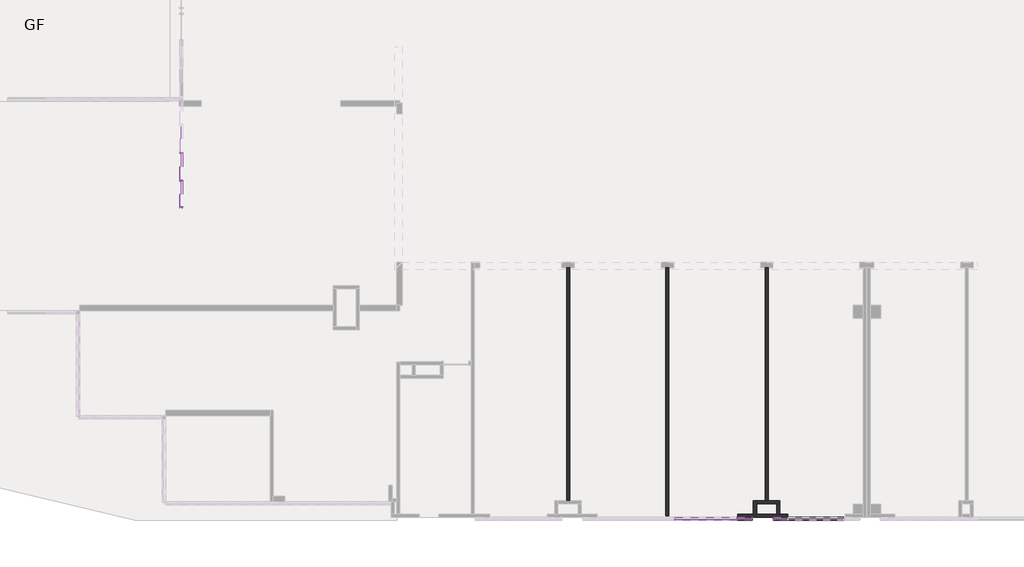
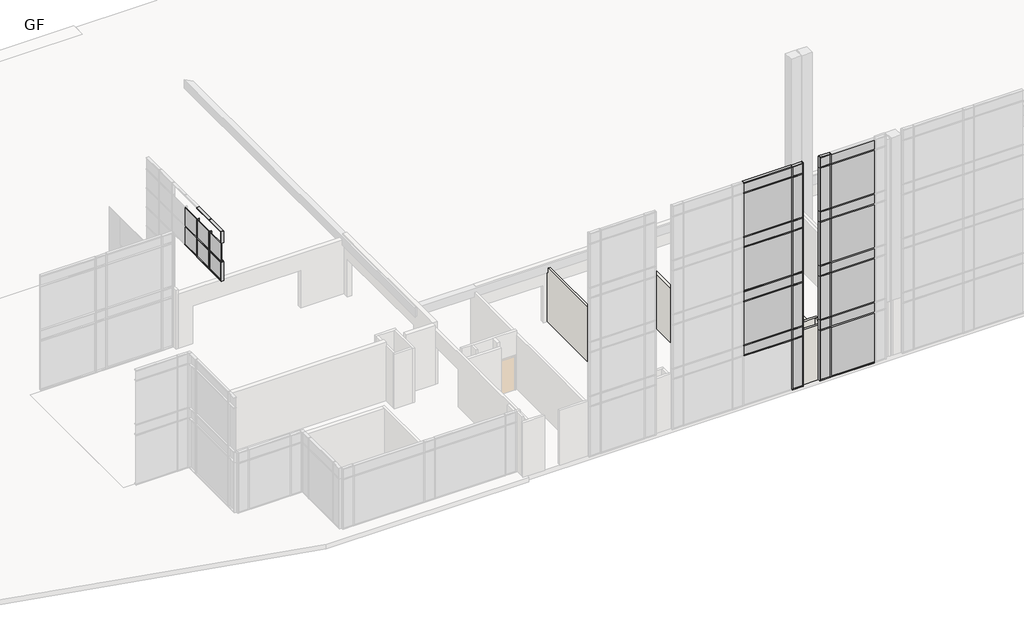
# One storey, part 5 of 23: 72 members, 37 plates, 7 walls.
"""IFC4 building model written with IfcOpenShell, lengths in millimetres."""

from ifc_helpers import new_model, si_unit, frame, origin, place, context, project, spatial, polyline, outline, extrude, faceted_brep, transform, mapped, element, save
from components import rectangular_mullion_50_x_150mm_64d38db8, rectangular_mullion_50_x_150mm_68b3818a, rectangular_mullion_50_x_150mm_350c86c2, rectangular_mullion_50_x_150mm_f245f1eb, rectangular_mullion_50_x_150mm_d11e3bb4, rectangular_mullion_50_x_150mm_7d543e93, rectangular_mullion_50_x_150mm_9e0f1e24, rectangular_mullion_50_x_150mm_a95743fc, rectangular_mullion_50_x_150mm_dbb82e9e, rectangular_mullion_50_x_150mm_32aaa733, rectangular_mullion_50_x_150mm_9b8962c0, rectangular_mullion_50_x_150mm_7dcb5a67, rectangular_mullion_50_x_150mm_f1d86669, rectangular_mullion_50_x_150mm_d99dc9be, rectangular_mullion_50_x_150mm_6588f46c, rectangular_mullion_50_x_150mm_0d3281e4, rectangular_mullion_50_x_150mm_a24dcaed, rectangular_mullion_50_x_150mm_3d2d9b82, rectangular_mullion_50_x_150mm_2a846207, rectangular_mullion_50_x_150mm_ab7a2645, system_panel_glazed_f9f902e6, system_panel_glazed_bf1ddb54, system_panel_glazed_6ff5b55b, system_panel_glazed_2a2db0e8, system_panel_glazed_93ed122c, system_panel_glazed_c1421171, system_panel_glazed_399b1310, system_panel_glazed_5ec2e07d, system_panel_glazed_ec8bd232, system_panel_glazed_befa3c64, system_panel_glazed_15d9a341, system_panel_glazed_6cc28878

model = new_model("IFC4")

# Units and contexts
model_context = context("Model", 3, world=origin())
ifc_project = project(units=[si_unit("LENGTHUNIT", "METRE", prefix="MILLI")], contexts=[model_context])

# Site, building, storey
site = spatial("IfcSite", under=ifc_project)
building = spatial("IfcBuilding", under=site)
storey = spatial("IfcBuildingStorey", under=building, Name="GF", Elevation=900.0)

# Members
placement = place(None, origin())
rectangular_mullion_50_x_150mm_shape = rectangular_mullion_50_x_150mm_64d38db8(model_context)
element("IfcMember", 1, ObjectType="Rectangular Mullion : 50 x 150mm", at=placement, inside=storey, context=model_context, shape_type="MappedRepresentation", body=[
    mapped(rectangular_mullion_50_x_150mm_shape, transform((-2642.5865899, -25897.6148653, 15125.0), x_axis=(0.0, 0.0, 1.0), y_axis=(0.0, -1.0, 0.0), z_axis=(1.0, 0.0, 0.0))),
])
element("IfcMember", 2, ObjectType="Rectangular Mullion : 50 x 150mm", at=placement, inside=storey, context=model_context, shape_type="MappedRepresentation", body=[
    mapped(rectangular_mullion_50_x_150mm_shape, transform((-4312.5865899, -25897.6148653, 15125.0), x_axis=(0.0, 0.0, 1.0), y_axis=(0.0, -1.0, 0.0), z_axis=(1.0, 0.0, 0.0))),
])
element("IfcMember", 3, ObjectType="Rectangular Mullion : 50 x 150mm", at=placement, inside=storey, context=model_context, shape_type="MappedRepresentation", body=[
    mapped(rectangular_mullion_50_x_150mm_shape, transform((-3242.5865899, -25897.6148653, 900.0), x_axis=(0.0, 0.0, -1.0), y_axis=(0.0, -1.0, 0.0), z_axis=(-1.0, 0.0, 0.0))),
])
element("IfcMember", 4, ObjectType="Rectangular Mullion : 50 x 150mm", at=placement, inside=storey, context=model_context, shape_type="MappedRepresentation", body=[
    mapped(rectangular_mullion_50_x_150mm_shape, transform((-4912.5865899, -25897.6148653, 900.0), x_axis=(0.0, 0.0, -1.0), y_axis=(0.0, -1.0, 0.0), z_axis=(-1.0, 0.0, 0.0))),
])
rectangular_mullion_50_x_150mm_2_shape = rectangular_mullion_50_x_150mm_68b3818a(model_context)
element("IfcMember", 5, ObjectType="Rectangular Mullion : 50 x 150mm", at=placement, inside=storey, context=model_context, shape_type="MappedRepresentation", body=[
    mapped(rectangular_mullion_50_x_150mm_2_shape, transform((-2642.5865899, -25897.6148653, 4750.0), x_axis=(0.0, 0.0, 1.0), y_axis=(0.0, -1.0, 0.0), z_axis=(1.0, 0.0, 0.0))),
])
element("IfcMember", 6, ObjectType="Rectangular Mullion : 50 x 150mm", at=placement, inside=storey, context=model_context, shape_type="MappedRepresentation", body=[
    mapped(rectangular_mullion_50_x_150mm_2_shape, transform((-2642.5865899, -25897.6148653, 4100.0), x_axis=(0.0, 0.0, 1.0), y_axis=(0.0, -1.0, 0.0), z_axis=(1.0, 0.0, 0.0))),
])
element("IfcMember", 7, ObjectType="Rectangular Mullion : 50 x 150mm", at=placement, inside=storey, context=model_context, shape_type="MappedRepresentation", body=[
    mapped(rectangular_mullion_50_x_150mm_2_shape, transform((-2642.5865899, -25897.6148653, 8200.0), x_axis=(0.0, 0.0, 1.0), y_axis=(0.0, -1.0, 0.0), z_axis=(1.0, 0.0, 0.0))),
])
element("IfcMember", 8, ObjectType="Rectangular Mullion : 50 x 150mm", at=placement, inside=storey, context=model_context, shape_type="MappedRepresentation", body=[
    mapped(rectangular_mullion_50_x_150mm_2_shape, transform((-2642.5865899, -25897.6148653, 11650.0), x_axis=(0.0, 0.0, 1.0), y_axis=(0.0, -1.0, 0.0), z_axis=(1.0, 0.0, 0.0))),
])
element("IfcMember", 9, ObjectType="Rectangular Mullion : 50 x 150mm", at=placement, inside=storey, context=model_context, shape_type="MappedRepresentation", body=[
    mapped(rectangular_mullion_50_x_150mm_2_shape, transform((-2642.5865899, -25897.6148653, 7550.0), x_axis=(0.0, 0.0, 1.0), y_axis=(0.0, -1.0, 0.0), z_axis=(1.0, 0.0, 0.0))),
])
element("IfcMember", 10, ObjectType="Rectangular Mullion : 50 x 150mm", at=placement, inside=storey, context=model_context, shape_type="MappedRepresentation", body=[
    mapped(rectangular_mullion_50_x_150mm_2_shape, transform((-2642.5865899, -25897.6148653, 11000.0), x_axis=(0.0, 0.0, 1.0), y_axis=(0.0, -1.0, 0.0), z_axis=(1.0, 0.0, 0.0))),
])
element("IfcMember", 11, ObjectType="Rectangular Mullion : 50 x 150mm", at=placement, inside=storey, context=model_context, shape_type="MappedRepresentation", body=[
    mapped(rectangular_mullion_50_x_150mm_2_shape, transform((-2642.5865899, -25897.6148653, 14450.0), x_axis=(0.0, 0.0, 1.0), y_axis=(0.0, -1.0, 0.0), z_axis=(1.0, 0.0, 0.0))),
])
element("IfcMember", 12, ObjectType="Rectangular Mullion : 50 x 150mm", at=placement, inside=storey, context=model_context, shape_type="MappedRepresentation", body=[
    mapped(rectangular_mullion_50_x_150mm_2_shape, transform((-4312.5865899, -25897.6148653, 4100.0), x_axis=(0.0, 0.0, 1.0), y_axis=(0.0, -1.0, 0.0), z_axis=(1.0, 0.0, 0.0))),
])
element("IfcMember", 13, ObjectType="Rectangular Mullion : 50 x 150mm", at=placement, inside=storey, context=model_context, shape_type="MappedRepresentation", body=[
    mapped(rectangular_mullion_50_x_150mm_2_shape, transform((-4312.5865899, -25897.6148653, 4750.0), x_axis=(0.0, 0.0, 1.0), y_axis=(0.0, -1.0, 0.0), z_axis=(1.0, 0.0, 0.0))),
])
element("IfcMember", 14, ObjectType="Rectangular Mullion : 50 x 150mm", at=placement, inside=storey, context=model_context, shape_type="MappedRepresentation", body=[
    mapped(rectangular_mullion_50_x_150mm_2_shape, transform((-4312.5865899, -25897.6148653, 7550.0), x_axis=(0.0, 0.0, 1.0), y_axis=(0.0, -1.0, 0.0), z_axis=(1.0, 0.0, 0.0))),
])
element("IfcMember", 15, ObjectType="Rectangular Mullion : 50 x 150mm", at=placement, inside=storey, context=model_context, shape_type="MappedRepresentation", body=[
    mapped(rectangular_mullion_50_x_150mm_2_shape, transform((-4312.5865899, -25897.6148653, 8200.0), x_axis=(0.0, 0.0, 1.0), y_axis=(0.0, -1.0, 0.0), z_axis=(1.0, 0.0, 0.0))),
])
element("IfcMember", 16, ObjectType="Rectangular Mullion : 50 x 150mm", at=placement, inside=storey, context=model_context, shape_type="MappedRepresentation", body=[
    mapped(rectangular_mullion_50_x_150mm_2_shape, transform((-4312.5865899, -25897.6148653, 11000.0), x_axis=(0.0, 0.0, 1.0), y_axis=(0.0, -1.0, 0.0), z_axis=(1.0, 0.0, 0.0))),
])
element("IfcMember", 17, ObjectType="Rectangular Mullion : 50 x 150mm", at=placement, inside=storey, context=model_context, shape_type="MappedRepresentation", body=[
    mapped(rectangular_mullion_50_x_150mm_2_shape, transform((-4312.5865899, -25897.6148653, 11650.0), x_axis=(0.0, 0.0, 1.0), y_axis=(0.0, -1.0, 0.0), z_axis=(1.0, 0.0, 0.0))),
])
element("IfcMember", 18, ObjectType="Rectangular Mullion : 50 x 150mm", at=placement, inside=storey, context=model_context, shape_type="MappedRepresentation", body=[
    mapped(rectangular_mullion_50_x_150mm_2_shape, transform((-4312.5865899, -25897.6148653, 14450.0), x_axis=(0.0, 0.0, 1.0), y_axis=(0.0, -1.0, 0.0), z_axis=(1.0, 0.0, 0.0))),
])
rectangular_mullion_50_x_150mm_3_shape = rectangular_mullion_50_x_150mm_350c86c2(model_context)
element("IfcMember", 19, ObjectType="Rectangular Mullion : 50 x 150mm", at=placement, inside=storey, context=model_context, shape_type="MappedRepresentation", body=[
    mapped(rectangular_mullion_50_x_150mm_3_shape, transform((-2592.5865899, -25897.6148653, 900.0), x_axis=(0.0, 0.0, -1.0), y_axis=(0.0, -1.0, 0.0), z_axis=(-1.0, 0.0, 0.0))),
])
rectangular_mullion_50_x_150mm_4_shape = rectangular_mullion_50_x_150mm_f245f1eb(model_context)
element("IfcMember", 20, ObjectType="Rectangular Mullion : 50 x 150mm", at=placement, inside=storey, context=model_context, shape_type="MappedRepresentation", body=[
    mapped(rectangular_mullion_50_x_150mm_4_shape, transform((-2617.5865899, -25897.6148653, 900.0), x_axis=(1.0, 0.0, 0.0), y_axis=(0.0, -1.0, 0.0), z_axis=(0.0, 0.0, -1.0))),
])
element("IfcMember", 21, ObjectType="Rectangular Mullion : 50 x 150mm", at=placement, inside=storey, context=model_context, shape_type="MappedRepresentation", body=[
    mapped(rectangular_mullion_50_x_150mm_4_shape, transform((-4937.5865899, -25897.6148653, 900.0), x_axis=(1.0, 0.0, 0.0), y_axis=(0.0, -1.0, 0.0), z_axis=(0.0, 0.0, -1.0))),
])
rectangular_mullion_50_x_150mm_5_shape = rectangular_mullion_50_x_150mm_d11e3bb4(model_context)
element("IfcMember", 22, ObjectType="Rectangular Mullion : 50 x 150mm", at=placement, inside=storey, context=model_context, shape_type="MappedRepresentation", body=[
    mapped(rectangular_mullion_50_x_150mm_5_shape, transform((-2617.5865899, -25897.6148653, 4750.0), x_axis=(1.0, 0.0, 0.0), y_axis=(0.0, -1.0, 0.0), z_axis=(0.0, 0.0, -1.0))),
])
element("IfcMember", 23, ObjectType="Rectangular Mullion : 50 x 150mm", at=placement, inside=storey, context=model_context, shape_type="MappedRepresentation", body=[
    mapped(rectangular_mullion_50_x_150mm_5_shape, transform((-2617.5865899, -25897.6148653, 8200.0), x_axis=(1.0, 0.0, 0.0), y_axis=(0.0, -1.0, 0.0), z_axis=(0.0, 0.0, -1.0))),
])
element("IfcMember", 24, ObjectType="Rectangular Mullion : 50 x 150mm", at=placement, inside=storey, context=model_context, shape_type="MappedRepresentation", body=[
    mapped(rectangular_mullion_50_x_150mm_5_shape, transform((-2617.5865899, -25897.6148653, 11650.0), x_axis=(1.0, 0.0, 0.0), y_axis=(0.0, -1.0, 0.0), z_axis=(0.0, 0.0, -1.0))),
])
element("IfcMember", 25, ObjectType="Rectangular Mullion : 50 x 150mm", at=placement, inside=storey, context=model_context, shape_type="MappedRepresentation", body=[
    mapped(rectangular_mullion_50_x_150mm_5_shape, transform((-4937.5865899, -25897.6148653, 4750.0), x_axis=(1.0, 0.0, 0.0), y_axis=(0.0, -1.0, 0.0), z_axis=(0.0, 0.0, -1.0))),
])
element("IfcMember", 26, ObjectType="Rectangular Mullion : 50 x 150mm", at=placement, inside=storey, context=model_context, shape_type="MappedRepresentation", body=[
    mapped(rectangular_mullion_50_x_150mm_5_shape, transform((-4937.5865899, -25897.6148653, 8200.0), x_axis=(1.0, 0.0, 0.0), y_axis=(0.0, -1.0, 0.0), z_axis=(0.0, 0.0, -1.0))),
])
element("IfcMember", 27, ObjectType="Rectangular Mullion : 50 x 150mm", at=placement, inside=storey, context=model_context, shape_type="MappedRepresentation", body=[
    mapped(rectangular_mullion_50_x_150mm_5_shape, transform((-4937.5865899, -25897.6148653, 11650.0), x_axis=(1.0, 0.0, 0.0), y_axis=(0.0, -1.0, 0.0), z_axis=(0.0, 0.0, -1.0))),
])
rectangular_mullion_50_x_150mm_6_shape = rectangular_mullion_50_x_150mm_7d543e93(model_context)
element("IfcMember", 28, ObjectType="Rectangular Mullion : 50 x 150mm", at=placement, inside=storey, context=model_context, shape_type="MappedRepresentation", body=[
    mapped(rectangular_mullion_50_x_150mm_6_shape, transform((-2617.5865899, -25897.6148653, 4100.0), x_axis=(1.0, 0.0, 0.0), y_axis=(0.0, -1.0, 0.0), z_axis=(0.0, 0.0, -1.0))),
])
element("IfcMember", 29, ObjectType="Rectangular Mullion : 50 x 150mm", at=placement, inside=storey, context=model_context, shape_type="MappedRepresentation", body=[
    mapped(rectangular_mullion_50_x_150mm_6_shape, transform((-2617.5865899, -25897.6148653, 7550.0), x_axis=(1.0, 0.0, 0.0), y_axis=(0.0, -1.0, 0.0), z_axis=(0.0, 0.0, -1.0))),
])
element("IfcMember", 30, ObjectType="Rectangular Mullion : 50 x 150mm", at=placement, inside=storey, context=model_context, shape_type="MappedRepresentation", body=[
    mapped(rectangular_mullion_50_x_150mm_6_shape, transform((-2617.5865899, -25897.6148653, 11000.0), x_axis=(1.0, 0.0, 0.0), y_axis=(0.0, -1.0, 0.0), z_axis=(0.0, 0.0, -1.0))),
])
element("IfcMember", 31, ObjectType="Rectangular Mullion : 50 x 150mm", at=placement, inside=storey, context=model_context, shape_type="MappedRepresentation", body=[
    mapped(rectangular_mullion_50_x_150mm_6_shape, transform((-4937.5865899, -25897.6148653, 4100.0), x_axis=(1.0, 0.0, 0.0), y_axis=(0.0, -1.0, 0.0), z_axis=(0.0, 0.0, -1.0))),
])
element("IfcMember", 32, ObjectType="Rectangular Mullion : 50 x 150mm", at=placement, inside=storey, context=model_context, shape_type="MappedRepresentation", body=[
    mapped(rectangular_mullion_50_x_150mm_6_shape, transform((-4937.5865899, -25897.6148653, 7550.0), x_axis=(1.0, 0.0, 0.0), y_axis=(0.0, -1.0, 0.0), z_axis=(0.0, 0.0, -1.0))),
])
element("IfcMember", 33, ObjectType="Rectangular Mullion : 50 x 150mm", at=placement, inside=storey, context=model_context, shape_type="MappedRepresentation", body=[
    mapped(rectangular_mullion_50_x_150mm_6_shape, transform((-4937.5865899, -25897.6148653, 11000.0), x_axis=(1.0, 0.0, 0.0), y_axis=(0.0, -1.0, 0.0), z_axis=(0.0, 0.0, -1.0))),
])
rectangular_mullion_50_x_150mm_7_shape = rectangular_mullion_50_x_150mm_9e0f1e24(model_context)
element("IfcMember", 34, ObjectType="Rectangular Mullion : 50 x 150mm", at=placement, inside=storey, context=model_context, shape_type="MappedRepresentation", body=[
    mapped(rectangular_mullion_50_x_150mm_7_shape, transform((-2617.5865899, -25897.6148653, 14450.0), x_axis=(1.0, 0.0, 0.0), y_axis=(0.0, -1.0, 0.0), z_axis=(0.0, 0.0, -1.0))),
])
element("IfcMember", 35, ObjectType="Rectangular Mullion : 50 x 150mm", at=placement, inside=storey, context=model_context, shape_type="MappedRepresentation", body=[
    mapped(rectangular_mullion_50_x_150mm_7_shape, transform((-4937.5865899, -25897.6148653, 14450.0), x_axis=(1.0, 0.0, 0.0), y_axis=(0.0, -1.0, 0.0), z_axis=(0.0, 0.0, -1.0))),
])
rectangular_mullion_50_x_150mm_8_shape = rectangular_mullion_50_x_150mm_a95743fc(model_context)
element("IfcMember", 36, ObjectType="Rectangular Mullion : 50 x 150mm", at=placement, inside=storey, context=model_context, shape_type="MappedRepresentation", body=[
    mapped(rectangular_mullion_50_x_150mm_8_shape, transform((-4262.5865899, -25897.6148653, 900.0), x_axis=(1.0, 0.0, 0.0), y_axis=(0.0, -1.0, 0.0), z_axis=(0.0, 0.0, -1.0))),
])
rectangular_mullion_50_x_150mm_9_shape = rectangular_mullion_50_x_150mm_dbb82e9e(model_context)
element("IfcMember", 37, ObjectType="Rectangular Mullion : 50 x 150mm", at=placement, inside=storey, context=model_context, shape_type="MappedRepresentation", body=[
    mapped(rectangular_mullion_50_x_150mm_9_shape, transform((-3292.5865899, -25897.6148653, 15125.0), x_axis=(-1.0, 0.0, 0.0), y_axis=(0.0, -1.0, 0.0), z_axis=(0.0, 0.0, 1.0))),
])
rectangular_mullion_50_x_150mm_10_shape = rectangular_mullion_50_x_150mm_32aaa733(model_context)
element("IfcMember", 38, ObjectType="Rectangular Mullion : 50 x 150mm", at=placement, inside=storey, context=model_context, shape_type="MappedRepresentation", body=[
    mapped(rectangular_mullion_50_x_150mm_10_shape, transform((-4262.5865899, -25897.6148653, 4750.0), x_axis=(1.0, 0.0, 0.0), y_axis=(0.0, -1.0, 0.0), z_axis=(0.0, 0.0, -1.0))),
])
element("IfcMember", 39, ObjectType="Rectangular Mullion : 50 x 150mm", at=placement, inside=storey, context=model_context, shape_type="MappedRepresentation", body=[
    mapped(rectangular_mullion_50_x_150mm_10_shape, transform((-4262.5865899, -25897.6148653, 8200.0), x_axis=(1.0, 0.0, 0.0), y_axis=(0.0, -1.0, 0.0), z_axis=(0.0, 0.0, -1.0))),
])
element("IfcMember", 40, ObjectType="Rectangular Mullion : 50 x 150mm", at=placement, inside=storey, context=model_context, shape_type="MappedRepresentation", body=[
    mapped(rectangular_mullion_50_x_150mm_10_shape, transform((-4262.5865899, -25897.6148653, 11650.0), x_axis=(1.0, 0.0, 0.0), y_axis=(0.0, -1.0, 0.0), z_axis=(0.0, 0.0, -1.0))),
])
rectangular_mullion_50_x_150mm_11_shape = rectangular_mullion_50_x_150mm_9b8962c0(model_context)
element("IfcMember", 41, ObjectType="Rectangular Mullion : 50 x 150mm", at=placement, inside=storey, context=model_context, shape_type="MappedRepresentation", body=[
    mapped(rectangular_mullion_50_x_150mm_11_shape, transform((-3292.5865899, -25897.6148653, 4750.0), x_axis=(-1.0, 0.0, 0.0), y_axis=(0.0, -1.0, 0.0), z_axis=(0.0, 0.0, 1.0))),
])
element("IfcMember", 42, ObjectType="Rectangular Mullion : 50 x 150mm", at=placement, inside=storey, context=model_context, shape_type="MappedRepresentation", body=[
    mapped(rectangular_mullion_50_x_150mm_11_shape, transform((-3292.5865899, -25897.6148653, 8200.0), x_axis=(-1.0, 0.0, 0.0), y_axis=(0.0, -1.0, 0.0), z_axis=(0.0, 0.0, 1.0))),
])
element("IfcMember", 43, ObjectType="Rectangular Mullion : 50 x 150mm", at=placement, inside=storey, context=model_context, shape_type="MappedRepresentation", body=[
    mapped(rectangular_mullion_50_x_150mm_11_shape, transform((-3292.5865899, -25897.6148653, 11650.0), x_axis=(-1.0, 0.0, 0.0), y_axis=(0.0, -1.0, 0.0), z_axis=(0.0, 0.0, 1.0))),
])
element("IfcMember", 44, ObjectType="Rectangular Mullion : 50 x 150mm", at=placement, inside=storey, context=model_context, shape_type="MappedRepresentation", body=[
    mapped(rectangular_mullion_50_x_150mm_11_shape, transform((-4262.5865899, -25897.6148653, 4100.0), x_axis=(1.0, 0.0, 0.0), y_axis=(0.0, -1.0, 0.0), z_axis=(0.0, 0.0, -1.0))),
])
element("IfcMember", 45, ObjectType="Rectangular Mullion : 50 x 150mm", at=placement, inside=storey, context=model_context, shape_type="MappedRepresentation", body=[
    mapped(rectangular_mullion_50_x_150mm_11_shape, transform((-4262.5865899, -25897.6148653, 7550.0), x_axis=(1.0, 0.0, 0.0), y_axis=(0.0, -1.0, 0.0), z_axis=(0.0, 0.0, -1.0))),
])
element("IfcMember", 46, ObjectType="Rectangular Mullion : 50 x 150mm", at=placement, inside=storey, context=model_context, shape_type="MappedRepresentation", body=[
    mapped(rectangular_mullion_50_x_150mm_11_shape, transform((-4262.5865899, -25897.6148653, 11000.0), x_axis=(1.0, 0.0, 0.0), y_axis=(0.0, -1.0, 0.0), z_axis=(0.0, 0.0, -1.0))),
])
element("IfcMember", 47, ObjectType="Rectangular Mullion : 50 x 150mm", at=placement, inside=storey, context=model_context, shape_type="MappedRepresentation", body=[
    mapped(rectangular_mullion_50_x_150mm_8_shape, transform((-3292.5865899, -25897.6148653, 4100.0), x_axis=(-1.0, 0.0, 0.0), y_axis=(0.0, -1.0, 0.0), z_axis=(0.0, 0.0, 1.0))),
])
element("IfcMember", 48, ObjectType="Rectangular Mullion : 50 x 150mm", at=placement, inside=storey, context=model_context, shape_type="MappedRepresentation", body=[
    mapped(rectangular_mullion_50_x_150mm_10_shape, transform((-3292.5865899, -25897.6148653, 7550.0), x_axis=(-1.0, 0.0, 0.0), y_axis=(0.0, -1.0, 0.0), z_axis=(0.0, 0.0, 1.0))),
])
element("IfcMember", 49, ObjectType="Rectangular Mullion : 50 x 150mm", at=placement, inside=storey, context=model_context, shape_type="MappedRepresentation", body=[
    mapped(rectangular_mullion_50_x_150mm_10_shape, transform((-3292.5865899, -25897.6148653, 11000.0), x_axis=(-1.0, 0.0, 0.0), y_axis=(0.0, -1.0, 0.0), z_axis=(0.0, 0.0, 1.0))),
])
element("IfcMember", 50, ObjectType="Rectangular Mullion : 50 x 150mm", at=placement, inside=storey, context=model_context, shape_type="MappedRepresentation", body=[
    mapped(rectangular_mullion_50_x_150mm_10_shape, transform((-3292.5865899, -25897.6148653, 14450.0), x_axis=(-1.0, 0.0, 0.0), y_axis=(0.0, -1.0, 0.0), z_axis=(0.0, 0.0, 1.0))),
])
element("IfcMember", 51, ObjectType="Rectangular Mullion : 50 x 150mm", at=placement, inside=storey, context=model_context, shape_type="MappedRepresentation", body=[
    mapped(rectangular_mullion_50_x_150mm_9_shape, transform((-4262.5865899, -25897.6148653, 14450.0), x_axis=(1.0, 0.0, 0.0), y_axis=(0.0, -1.0, 0.0), z_axis=(0.0, 0.0, -1.0))),
])
rectangular_mullion_50_x_150mm_12_shape = rectangular_mullion_50_x_150mm_7dcb5a67(model_context)
element("IfcMember", 52, ObjectType="Rectangular Mullion : 50 x 150mm", at=placement, inside=storey, context=model_context, shape_type="MappedRepresentation", body=[
    mapped(rectangular_mullion_50_x_150mm_12_shape, transform((-4962.5865899, -25897.6148653, 15125.0), x_axis=(0.0, 0.0, 1.0), y_axis=(0.0, -1.0, 0.0), z_axis=(1.0, 0.0, 0.0))),
])
rectangular_mullion_50_x_150mm_13_shape = rectangular_mullion_50_x_150mm_f1d86669(model_context)
element("IfcMember", 53, ObjectType="Rectangular Mullion : 50 x 150mm", at=placement, inside=storey, context=model_context, shape_type="MappedRepresentation", body=[
    mapped(rectangular_mullion_50_x_150mm_13_shape, transform((-4962.5865899, -25897.6148653, 4100.0), x_axis=(0.0, 0.0, 1.0), y_axis=(0.0, -1.0, 0.0), z_axis=(1.0, 0.0, 0.0))),
])
element("IfcMember", 54, ObjectType="Rectangular Mullion : 50 x 150mm", at=placement, inside=storey, context=model_context, shape_type="MappedRepresentation", body=[
    mapped(rectangular_mullion_50_x_150mm_13_shape, transform((-4962.5865899, -25897.6148653, 4750.0), x_axis=(0.0, 0.0, 1.0), y_axis=(0.0, -1.0, 0.0), z_axis=(1.0, 0.0, 0.0))),
])
element("IfcMember", 55, ObjectType="Rectangular Mullion : 50 x 150mm", at=placement, inside=storey, context=model_context, shape_type="MappedRepresentation", body=[
    mapped(rectangular_mullion_50_x_150mm_13_shape, transform((-4962.5865899, -25897.6148653, 7550.0), x_axis=(0.0, 0.0, 1.0), y_axis=(0.0, -1.0, 0.0), z_axis=(1.0, 0.0, 0.0))),
])
element("IfcMember", 56, ObjectType="Rectangular Mullion : 50 x 150mm", at=placement, inside=storey, context=model_context, shape_type="MappedRepresentation", body=[
    mapped(rectangular_mullion_50_x_150mm_13_shape, transform((-4962.5865899, -25897.6148653, 8200.0), x_axis=(0.0, 0.0, 1.0), y_axis=(0.0, -1.0, 0.0), z_axis=(1.0, 0.0, 0.0))),
])
element("IfcMember", 57, ObjectType="Rectangular Mullion : 50 x 150mm", at=placement, inside=storey, context=model_context, shape_type="MappedRepresentation", body=[
    mapped(rectangular_mullion_50_x_150mm_13_shape, transform((-4962.5865899, -25897.6148653, 11000.0), x_axis=(0.0, 0.0, 1.0), y_axis=(0.0, -1.0, 0.0), z_axis=(1.0, 0.0, 0.0))),
])
element("IfcMember", 58, ObjectType="Rectangular Mullion : 50 x 150mm", at=placement, inside=storey, context=model_context, shape_type="MappedRepresentation", body=[
    mapped(rectangular_mullion_50_x_150mm_13_shape, transform((-4962.5865899, -25897.6148653, 11650.0), x_axis=(0.0, 0.0, 1.0), y_axis=(0.0, -1.0, 0.0), z_axis=(1.0, 0.0, 0.0))),
])
element("IfcMember", 59, ObjectType="Rectangular Mullion : 50 x 150mm", at=placement, inside=storey, context=model_context, shape_type="MappedRepresentation", body=[
    mapped(rectangular_mullion_50_x_150mm_13_shape, transform((-4962.5865899, -25897.6148653, 14450.0), x_axis=(0.0, 0.0, 1.0), y_axis=(0.0, -1.0, 0.0), z_axis=(1.0, 0.0, 0.0))),
])
rectangular_mullion_50_x_150mm_14_shape = rectangular_mullion_50_x_150mm_d99dc9be(model_context)
element("IfcMember", 60, ObjectType="Rectangular Mullion : 50 x 150mm", at=placement, inside=storey, context=model_context, shape_type="MappedRepresentation", body=[
    mapped(rectangular_mullion_50_x_150mm_14_shape, transform((-30812.5865899, -10181.4898653, 8100.0), x_axis=(0.0, 1.0, 0.0), y_axis=(1.0, 0.0, 0.0), z_axis=(0.0, 0.0, -1.0))),
])
element("IfcMember", 61, ObjectType="Rectangular Mullion : 50 x 150mm", at=placement, inside=storey, context=model_context, shape_type="MappedRepresentation", body=[
    mapped(rectangular_mullion_50_x_150mm_14_shape, transform((-30812.5865899, -8886.8648653, 8100.0), x_axis=(0.0, 1.0, 0.0), y_axis=(1.0, 0.0, 0.0), z_axis=(0.0, 0.0, -1.0))),
])
element("IfcMember", 62, ObjectType="Rectangular Mullion : 50 x 150mm", at=placement, inside=storey, context=model_context, shape_type="MappedRepresentation", body=[
    mapped(rectangular_mullion_50_x_150mm_14_shape, transform((-30812.5865899, -10181.4898653, 9300.0), x_axis=(0.0, 1.0, 0.0), y_axis=(1.0, 0.0, 0.0), z_axis=(0.0, 0.0, -1.0))),
])
element("IfcMember", 63, ObjectType="Rectangular Mullion : 50 x 150mm", at=placement, inside=storey, context=model_context, shape_type="MappedRepresentation", body=[
    mapped(rectangular_mullion_50_x_150mm_14_shape, transform((-30812.5865899, -8886.8648653, 9300.0), x_axis=(0.0, 1.0, 0.0), y_axis=(1.0, 0.0, 0.0), z_axis=(0.0, 0.0, -1.0))),
])
rectangular_mullion_50_x_150mm_15_shape = rectangular_mullion_50_x_150mm_6588f46c(model_context)
element("IfcMember", 64, ObjectType="Rectangular Mullion : 50 x 150mm", at=placement, inside=storey, context=model_context, shape_type="MappedRepresentation", body=[
    mapped(rectangular_mullion_50_x_150mm_15_shape, transform((-30812.5865899, -11451.1148653, 9300.0), x_axis=(0.0, -1.0, 0.0), y_axis=(1.0, 0.0, 0.0), z_axis=(0.0, 0.0, 1.0))),
])
rectangular_mullion_50_x_150mm_16_shape = rectangular_mullion_50_x_150mm_0d3281e4(model_context)
element("IfcMember", 65, ObjectType="Rectangular Mullion : 50 x 150mm", at=placement, inside=storey, context=model_context, shape_type="MappedRepresentation", body=[
    mapped(rectangular_mullion_50_x_150mm_16_shape, transform((-30812.5865899, -11451.1148653, 11250.0), x_axis=(0.0, -1.0, 0.0), y_axis=(1.0, 0.0, 0.0), z_axis=(0.0, 0.0, 1.0))),
])
rectangular_mullion_50_x_150mm_17_shape = rectangular_mullion_50_x_150mm_a24dcaed(model_context)
element("IfcMember", 66, ObjectType="Rectangular Mullion : 50 x 150mm", at=placement, inside=storey, context=model_context, shape_type="MappedRepresentation", body=[
    mapped(rectangular_mullion_50_x_150mm_17_shape, transform((-30812.5865899, -8911.8648653, 11250.0), x_axis=(0.0, 0.0, 1.0), y_axis=(1.0, 0.0, 0.0), z_axis=(0.0, 1.0, 0.0))),
])
rectangular_mullion_50_x_150mm_18_shape = rectangular_mullion_50_x_150mm_3d2d9b82(model_context)
element("IfcMember", 67, ObjectType="Rectangular Mullion : 50 x 150mm", at=placement, inside=storey, context=model_context, shape_type="MappedRepresentation", body=[
    mapped(rectangular_mullion_50_x_150mm_18_shape, transform((-30812.5865899, -11401.1148653, 8100.0), x_axis=(0.0, 0.0, -1.0), y_axis=(1.0, 0.0, 0.0), z_axis=(0.0, -1.0, 0.0))),
])
element("IfcMember", 68, ObjectType="Rectangular Mullion : 50 x 150mm", at=placement, inside=storey, context=model_context, shape_type="MappedRepresentation", body=[
    mapped(rectangular_mullion_50_x_150mm_18_shape, transform((-30812.5865899, -10206.4898653, 11250.0), x_axis=(0.0, 0.0, 1.0), y_axis=(1.0, 0.0, 0.0), z_axis=(0.0, 1.0, 0.0))),
])
element("IfcMember", 69, ObjectType="Rectangular Mullion : 50 x 150mm", at=placement, inside=storey, context=model_context, shape_type="MappedRepresentation", body=[
    mapped(rectangular_mullion_50_x_150mm_17_shape, transform((-30812.5865899, -10156.4898653, 8100.0), x_axis=(0.0, 0.0, -1.0), y_axis=(1.0, 0.0, 0.0), z_axis=(0.0, -1.0, 0.0))),
])
element("IfcMember", 70, ObjectType="Rectangular Mullion : 50 x 150mm", at=placement, inside=storey, context=model_context, shape_type="MappedRepresentation", body=[
    mapped(rectangular_mullion_50_x_150mm_17_shape, transform((-30812.5865899, -8861.8648653, 8100.0), x_axis=(0.0, 0.0, -1.0), y_axis=(1.0, 0.0, 0.0), z_axis=(0.0, -1.0, 0.0))),
])
rectangular_mullion_50_x_150mm_19_shape = rectangular_mullion_50_x_150mm_2a846207(model_context)
element("IfcMember", 71, ObjectType="Rectangular Mullion : 50 x 150mm", at=placement, inside=storey, context=model_context, shape_type="MappedRepresentation", body=[
    mapped(rectangular_mullion_50_x_150mm_19_shape, transform((-30812.5865899, -8911.8648653, 9300.0), x_axis=(0.0, 0.0, 1.0), y_axis=(1.0, 0.0, 0.0), z_axis=(0.0, 1.0, 0.0))),
])
rectangular_mullion_50_x_150mm_20_shape = rectangular_mullion_50_x_150mm_ab7a2645(model_context)
element("IfcMember", 72, ObjectType="Rectangular Mullion : 50 x 150mm", at=placement, inside=storey, context=model_context, shape_type="MappedRepresentation", body=[
    mapped(rectangular_mullion_50_x_150mm_20_shape, transform((-30812.5865899, -10206.4898653, 9300.0), x_axis=(0.0, 0.0, 1.0), y_axis=(1.0, 0.0, 0.0), z_axis=(0.0, 1.0, 0.0))),
])

# Plates
system_panel_glazed_shape = system_panel_glazed_f9f902e6(model_context)
element("IfcPlate", 73, ObjectType="System Panel : Glazed", at=placement, inside=storey, context=model_context, shape_type="MappedRepresentation", body=[
    mapped(system_panel_glazed_shape, transform((-2942.5865899, -25897.6148653, 950.0), x_axis=(1.0, 0.0, 0.0), y_axis=(0.0, 1.0, 0.0), z_axis=(0.0, 0.0, 1.0))),
])
element("IfcPlate", 74, ObjectType="System Panel : Glazed", at=placement, inside=storey, context=model_context, shape_type="MappedRepresentation", body=[
    mapped(system_panel_glazed_shape, transform((-4612.5865899, -25897.6148653, 950.0), x_axis=(1.0, 0.0, 0.0), y_axis=(0.0, 1.0, 0.0), z_axis=(0.0, 0.0, 1.0))),
])
system_panel_glazed_2_shape = system_panel_glazed_bf1ddb54(model_context)
element("IfcPlate", 75, ObjectType="System Panel : Glazed", at=placement, inside=storey, context=model_context, shape_type="MappedRepresentation", body=[
    mapped(system_panel_glazed_2_shape, transform((-1285.0865899, -25897.6148653, 950.0), x_axis=(1.0, 0.0, 0.0), y_axis=(0.0, 1.0, 0.0), z_axis=(0.0, 0.0, 1.0))),
])
system_panel_glazed_3_shape = system_panel_glazed_6ff5b55b(model_context)
element("IfcPlate", 76, ObjectType="System Panel : Glazed", at=placement, inside=storey, context=model_context, shape_type="MappedRepresentation", body=[
    mapped(system_panel_glazed_3_shape, transform((-2942.5865899, -25897.6148653, 4775.0), x_axis=(1.0, 0.0, 0.0), y_axis=(0.0, 1.0, 0.0), z_axis=(0.0, 0.0, 1.0))),
])
element("IfcPlate", 77, ObjectType="System Panel : Glazed", at=placement, inside=storey, context=model_context, shape_type="MappedRepresentation", body=[
    mapped(system_panel_glazed_3_shape, transform((-2942.5865899, -25897.6148653, 8225.0), x_axis=(1.0, 0.0, 0.0), y_axis=(0.0, 1.0, 0.0), z_axis=(0.0, 0.0, 1.0))),
])
element("IfcPlate", 78, ObjectType="System Panel : Glazed", at=placement, inside=storey, context=model_context, shape_type="MappedRepresentation", body=[
    mapped(system_panel_glazed_3_shape, transform((-2942.5865899, -25897.6148653, 11675.0), x_axis=(1.0, 0.0, 0.0), y_axis=(0.0, 1.0, 0.0), z_axis=(0.0, 0.0, 1.0))),
])
element("IfcPlate", 79, ObjectType="System Panel : Glazed", at=placement, inside=storey, context=model_context, shape_type="MappedRepresentation", body=[
    mapped(system_panel_glazed_3_shape, transform((-4612.5865899, -25897.6148653, 4775.0), x_axis=(1.0, 0.0, 0.0), y_axis=(0.0, 1.0, 0.0), z_axis=(0.0, 0.0, 1.0))),
])
element("IfcPlate", 80, ObjectType="System Panel : Glazed", at=placement, inside=storey, context=model_context, shape_type="MappedRepresentation", body=[
    mapped(system_panel_glazed_3_shape, transform((-4612.5865899, -25897.6148653, 8225.0), x_axis=(1.0, 0.0, 0.0), y_axis=(0.0, 1.0, 0.0), z_axis=(0.0, 0.0, 1.0))),
])
element("IfcPlate", 81, ObjectType="System Panel : Glazed", at=placement, inside=storey, context=model_context, shape_type="MappedRepresentation", body=[
    mapped(system_panel_glazed_3_shape, transform((-4612.5865899, -25897.6148653, 11675.0), x_axis=(1.0, 0.0, 0.0), y_axis=(0.0, 1.0, 0.0), z_axis=(0.0, 0.0, 1.0))),
])
system_panel_glazed_4_shape = system_panel_glazed_2a2db0e8(model_context)
element("IfcPlate", 82, ObjectType="System Panel : Glazed", at=placement, inside=storey, context=model_context, shape_type="MappedRepresentation", body=[
    mapped(system_panel_glazed_4_shape, transform((-1285.0865899, -25897.6148653, 4775.0), x_axis=(1.0, 0.0, 0.0), y_axis=(0.0, 1.0, 0.0), z_axis=(0.0, 0.0, 1.0))),
])
element("IfcPlate", 83, ObjectType="System Panel : Glazed", at=placement, inside=storey, context=model_context, shape_type="MappedRepresentation", body=[
    mapped(system_panel_glazed_4_shape, transform((-1285.0865899, -25897.6148653, 8225.0), x_axis=(1.0, 0.0, 0.0), y_axis=(0.0, 1.0, 0.0), z_axis=(0.0, 0.0, 1.0))),
])
element("IfcPlate", 84, ObjectType="System Panel : Glazed", at=placement, inside=storey, context=model_context, shape_type="MappedRepresentation", body=[
    mapped(system_panel_glazed_4_shape, transform((-1285.0865899, -25897.6148653, 11675.0), x_axis=(1.0, 0.0, 0.0), y_axis=(0.0, 1.0, 0.0), z_axis=(0.0, 0.0, 1.0))),
])
system_panel_glazed_5_shape = system_panel_glazed_93ed122c(model_context)
element("IfcPlate", 85, ObjectType="System Panel : Glazed", at=placement, inside=storey, context=model_context, shape_type="MappedRepresentation", body=[
    mapped(system_panel_glazed_5_shape, transform((-2942.5865899, -25897.6148653, 4125.0), x_axis=(1.0, 0.0, 0.0), y_axis=(0.0, 1.0, 0.0), z_axis=(0.0, 0.0, 1.0))),
])
element("IfcPlate", 86, ObjectType="System Panel : Glazed", at=placement, inside=storey, context=model_context, shape_type="MappedRepresentation", body=[
    mapped(system_panel_glazed_5_shape, transform((-2942.5865899, -25897.6148653, 7575.0), x_axis=(1.0, 0.0, 0.0), y_axis=(0.0, 1.0, 0.0), z_axis=(0.0, 0.0, 1.0))),
])
element("IfcPlate", 87, ObjectType="System Panel : Glazed", at=placement, inside=storey, context=model_context, shape_type="MappedRepresentation", body=[
    mapped(system_panel_glazed_5_shape, transform((-2942.5865899, -25897.6148653, 11025.0), x_axis=(1.0, 0.0, 0.0), y_axis=(0.0, 1.0, 0.0), z_axis=(0.0, 0.0, 1.0))),
])
element("IfcPlate", 88, ObjectType="System Panel : Glazed", at=placement, inside=storey, context=model_context, shape_type="MappedRepresentation", body=[
    mapped(system_panel_glazed_5_shape, transform((-2942.5865899, -25897.6148653, 14475.0), x_axis=(1.0, 0.0, 0.0), y_axis=(0.0, 1.0, 0.0), z_axis=(0.0, 0.0, 1.0))),
])
element("IfcPlate", 89, ObjectType="System Panel : Glazed", at=placement, inside=storey, context=model_context, shape_type="MappedRepresentation", body=[
    mapped(system_panel_glazed_5_shape, transform((-4612.5865899, -25897.6148653, 4125.0), x_axis=(1.0, 0.0, 0.0), y_axis=(0.0, 1.0, 0.0), z_axis=(0.0, 0.0, 1.0))),
])
element("IfcPlate", 90, ObjectType="System Panel : Glazed", at=placement, inside=storey, context=model_context, shape_type="MappedRepresentation", body=[
    mapped(system_panel_glazed_5_shape, transform((-4612.5865899, -25897.6148653, 7575.0), x_axis=(1.0, 0.0, 0.0), y_axis=(0.0, 1.0, 0.0), z_axis=(0.0, 0.0, 1.0))),
])
element("IfcPlate", 91, ObjectType="System Panel : Glazed", at=placement, inside=storey, context=model_context, shape_type="MappedRepresentation", body=[
    mapped(system_panel_glazed_5_shape, transform((-4612.5865899, -25897.6148653, 11025.0), x_axis=(1.0, 0.0, 0.0), y_axis=(0.0, 1.0, 0.0), z_axis=(0.0, 0.0, 1.0))),
])
element("IfcPlate", 92, ObjectType="System Panel : Glazed", at=placement, inside=storey, context=model_context, shape_type="MappedRepresentation", body=[
    mapped(system_panel_glazed_5_shape, transform((-4612.5865899, -25897.6148653, 14475.0), x_axis=(1.0, 0.0, 0.0), y_axis=(0.0, 1.0, 0.0), z_axis=(0.0, 0.0, 1.0))),
])
system_panel_glazed_6_shape = system_panel_glazed_c1421171(model_context)
element("IfcPlate", 93, ObjectType="System Panel : Glazed", at=placement, inside=storey, context=model_context, shape_type="MappedRepresentation", body=[
    mapped(system_panel_glazed_6_shape, transform((-1285.0865899, -25897.6148653, 4125.0), x_axis=(1.0, 0.0, 0.0), y_axis=(0.0, 1.0, 0.0), z_axis=(0.0, 0.0, 1.0))),
])
element("IfcPlate", 94, ObjectType="System Panel : Glazed", at=placement, inside=storey, context=model_context, shape_type="MappedRepresentation", body=[
    mapped(system_panel_glazed_6_shape, transform((-1285.0865899, -25897.6148653, 7575.0), x_axis=(1.0, 0.0, 0.0), y_axis=(0.0, 1.0, 0.0), z_axis=(0.0, 0.0, 1.0))),
])
element("IfcPlate", 95, ObjectType="System Panel : Glazed", at=placement, inside=storey, context=model_context, shape_type="MappedRepresentation", body=[
    mapped(system_panel_glazed_6_shape, transform((-1285.0865899, -25897.6148653, 11025.0), x_axis=(1.0, 0.0, 0.0), y_axis=(0.0, 1.0, 0.0), z_axis=(0.0, 0.0, 1.0))),
])
element("IfcPlate", 96, ObjectType="System Panel : Glazed", at=placement, inside=storey, context=model_context, shape_type="MappedRepresentation", body=[
    mapped(system_panel_glazed_6_shape, transform((-1285.0865899, -25897.6148653, 14475.0), x_axis=(1.0, 0.0, 0.0), y_axis=(0.0, 1.0, 0.0), z_axis=(0.0, 0.0, 1.0))),
])
system_panel_glazed_7_shape = system_panel_glazed_399b1310(model_context)
element("IfcPlate", 97, ObjectType="System Panel : Glazed", at=placement, inside=storey, context=model_context, shape_type="MappedRepresentation", body=[
    mapped(system_panel_glazed_7_shape, transform((-6410.0865899, -25897.6148653, 4775.0), x_axis=(1.0, 0.0, 0.0), y_axis=(0.0, 1.0, 0.0), z_axis=(0.0, 0.0, 1.0))),
])
element("IfcPlate", 98, ObjectType="System Panel : Glazed", at=placement, inside=storey, context=model_context, shape_type="MappedRepresentation", body=[
    mapped(system_panel_glazed_7_shape, transform((-6410.0865899, -25897.6148653, 8225.0), x_axis=(1.0, 0.0, 0.0), y_axis=(0.0, 1.0, 0.0), z_axis=(0.0, 0.0, 1.0))),
])
element("IfcPlate", 99, ObjectType="System Panel : Glazed", at=placement, inside=storey, context=model_context, shape_type="MappedRepresentation", body=[
    mapped(system_panel_glazed_7_shape, transform((-6410.0865899, -25897.6148653, 11675.0), x_axis=(1.0, 0.0, 0.0), y_axis=(0.0, 1.0, 0.0), z_axis=(0.0, 0.0, 1.0))),
])
system_panel_glazed_8_shape = system_panel_glazed_5ec2e07d(model_context)
element("IfcPlate", 100, ObjectType="System Panel : Glazed", at=placement, inside=storey, context=model_context, shape_type="MappedRepresentation", body=[
    mapped(system_panel_glazed_8_shape, transform((-6410.0865899, -25897.6148653, 4125.0), x_axis=(1.0, 0.0, 0.0), y_axis=(0.0, 1.0, 0.0), z_axis=(0.0, 0.0, 1.0))),
])
element("IfcPlate", 101, ObjectType="System Panel : Glazed", at=placement, inside=storey, context=model_context, shape_type="MappedRepresentation", body=[
    mapped(system_panel_glazed_8_shape, transform((-6410.0865899, -25897.6148653, 7575.0), x_axis=(1.0, 0.0, 0.0), y_axis=(0.0, 1.0, 0.0), z_axis=(0.0, 0.0, 1.0))),
])
element("IfcPlate", 102, ObjectType="System Panel : Glazed", at=placement, inside=storey, context=model_context, shape_type="MappedRepresentation", body=[
    mapped(system_panel_glazed_8_shape, transform((-6410.0865899, -25897.6148653, 11025.0), x_axis=(1.0, 0.0, 0.0), y_axis=(0.0, 1.0, 0.0), z_axis=(0.0, 0.0, 1.0))),
])
element("IfcPlate", 103, ObjectType="System Panel : Glazed", at=placement, inside=storey, context=model_context, shape_type="MappedRepresentation", body=[
    mapped(system_panel_glazed_8_shape, transform((-6410.0865899, -25897.6148653, 14475.0), x_axis=(1.0, 0.0, 0.0), y_axis=(0.0, 1.0, 0.0), z_axis=(0.0, 0.0, 1.0))),
])
system_panel_glazed_9_shape = system_panel_glazed_ec8bd232(model_context)
element("IfcPlate", 104, ObjectType="System Panel : Glazed", at=placement, inside=storey, context=model_context, shape_type="MappedRepresentation", body=[
    mapped(system_panel_glazed_9_shape, transform((-30812.5865899, -10803.8023653, 8150.0), x_axis=(0.0, 1.0, 0.0), y_axis=(-1.0, 0.0, 0.0), z_axis=(0.0, 0.0, 1.0))),
])
system_panel_glazed_10_shape = system_panel_glazed_befa3c64(model_context)
element("IfcPlate", 105, ObjectType="System Panel : Glazed", at=placement, inside=storey, context=model_context, shape_type="MappedRepresentation", body=[
    mapped(system_panel_glazed_10_shape, transform((-30812.5865899, -10803.8023653, 9325.0), x_axis=(0.0, 1.0, 0.0), y_axis=(-1.0, 0.0, 0.0), z_axis=(0.0, 0.0, 1.0))),
])
system_panel_glazed_11_shape = system_panel_glazed_15d9a341(model_context)
element("IfcPlate", 106, ObjectType="System Panel : Glazed", at=placement, inside=storey, context=model_context, shape_type="MappedRepresentation", body=[
    mapped(system_panel_glazed_11_shape, transform((-30812.5865899, -9534.1773653, 8150.0), x_axis=(0.0, 1.0, 0.0), y_axis=(-1.0, 0.0, 0.0), z_axis=(0.0, 0.0, 1.0))),
])
element("IfcPlate", 107, ObjectType="System Panel : Glazed", at=placement, inside=storey, context=model_context, shape_type="MappedRepresentation", body=[
    mapped(system_panel_glazed_11_shape, transform((-30812.5865899, -8239.5523653, 8150.0), x_axis=(0.0, 1.0, 0.0), y_axis=(-1.0, 0.0, 0.0), z_axis=(0.0, 0.0, 1.0))),
])
system_panel_glazed_12_shape = system_panel_glazed_6cc28878(model_context)
element("IfcPlate", 108, ObjectType="System Panel : Glazed", at=placement, inside=storey, context=model_context, shape_type="MappedRepresentation", body=[
    mapped(system_panel_glazed_12_shape, transform((-30812.5865899, -9534.1773653, 9325.0), x_axis=(0.0, 1.0, 0.0), y_axis=(-1.0, 0.0, 0.0), z_axis=(0.0, 0.0, 1.0))),
])
element("IfcPlate", 109, ObjectType="System Panel : Glazed", at=placement, inside=storey, context=model_context, shape_type="MappedRepresentation", body=[
    mapped(system_panel_glazed_12_shape, transform((-30812.5865899, -8239.5523653, 9325.0), x_axis=(0.0, 1.0, 0.0), y_axis=(-1.0, 0.0, 0.0), z_axis=(0.0, 0.0, 1.0))),
])

# Walls
element("IfcWall", 110, ObjectType="wall-115", at=placement, inside=storey, context=model_context, shape_type="Brep", body=[
    faceted_brep([(-4065.5865899, -25692.6148653, 900.0), (-4065.5865899, -25204.6148653, 900.0), (-4065.5865899, -25062.6148653, 900.0), (-4065.5865899, -25062.6148653, 4375.0), (-4065.5865899, -25204.6148653, 4375.0), (-4065.5865899, -25692.6148653, 4375.0), (-4207.5865899, -25692.6148653, 900.0), (-4207.5865899, -25692.6148653, 4375.0), (-4207.5865899, -25062.6148653, 4375.0), (-4207.5865899, -25062.6148653, 900.0)], [[[0, 1, 2, 3, 4, 5]], [[6, 7, 8, 9]], [[2, 1, 0, 6, 9]], [[3, 2, 9, 8]], [[0, 5, 7, 6]], [[5, 4, 3, 8, 7]]]),
])
element("IfcWall", 111, ObjectType="wall-115", at=placement, inside=storey, context=model_context, shape_type="Brep", body=[
    faceted_brep([(-4065.5865899, -25204.6148653, 900.0), (-3119.5865899, -25204.6148653, 900.0), (-2977.5865899, -25204.6148653, 900.0), (-2977.5865899, -25204.6148653, 4375.0), (-3119.5865899, -25204.6148653, 4375.0), (-4065.5865899, -25204.6148653, 4375.0), (-4065.5865899, -25062.6148653, 900.0), (-4065.5865899, -25062.6148653, 4375.0), (-3665.0865899, -25062.6148653, 4375.0), (-3523.0865899, -25062.6148653, 4375.0), (-2977.5865899, -25062.6148653, 4375.0), (-2977.5865899, -25062.6148653, 900.0), (-3523.0865899, -25062.6148653, 900.0), (-3665.0865899, -25062.6148653, 900.0)], [[[0, 1, 2, 3, 4, 5]], [[6, 7, 8, 9, 10, 11, 12, 13]], [[2, 1, 0, 6, 13, 12, 11]], [[3, 2, 11, 10]], [[0, 5, 7, 6]], [[5, 4, 3, 10, 9, 8, 7]]]),
])
element("IfcWall", 112, ObjectType="wall-115", at=placement, inside=storey, context=model_context, shape_type="SweptSolid", body=[
    extrude(outline(polyline([(-3119.5865899, -25692.6148653), (-3119.5865899, -25204.6148653), (-2977.5865899, -25204.6148653), (-2977.5865899, -25692.6148653), (-3119.5865899, -25692.6148653)])), frame((0.0, 0.0, 900.0), z_axis=(0.0, 0.0, 1.0), x_axis=(1.0, 0.0, 0.0)), (0.0, 0.0, 1.0), 3475.0),
])
element("IfcWall", 113, ObjectType="wall-115", at=placement, inside=storey, context=model_context, shape_type="SweptSolid", body=[
    extrude(outline(polyline([(-3523.0865899, -14217.6148653), (-3523.0865899, -25062.6148653), (-3665.0865899, -25062.6148653), (-3665.0865899, -14217.6148653), (-3523.0865899, -14217.6148653)])), frame((0.0, 0.0, 900.0), z_axis=(0.0, 0.0, 1.0), x_axis=(1.0, 0.0, 0.0)), (0.0, 0.0, 1.0), 3475.0),
])
element("IfcWall", 114, ObjectType="wall-115", at=placement, inside=storey, context=model_context, shape_type="SweptSolid", body=[
    extrude(outline(polyline([(-8138.0865899, -14217.6148653), (-8138.0865899, -25765.1148653), (-8280.0865899, -25765.1148653), (-8280.0865899, -14217.6148653), (-8138.0865899, -14217.6148653)])), frame((0.0, 0.0, 900.0), z_axis=(0.0, 0.0, 1.0), x_axis=(1.0, 0.0, 0.0)), (0.0, 0.0, 1.0), 3475.0),
])
element("IfcWall", 115, ObjectType="wall-115", at=placement, inside=storey, context=model_context, shape_type="SweptSolid", body=[
    extrude(outline(polyline([(-12753.0865899, -14217.6148653), (-12753.0865899, -25062.6148653), (-12895.0865899, -25062.6148653), (-12895.0865899, -14217.6148653), (-12753.0865899, -14217.6148653)])), frame((0.0, 0.0, 900.0), z_axis=(0.0, 0.0, 1.0), x_axis=(1.0, 0.0, 0.0)), (0.0, 0.0, 1.0), 3475.0),
])
element("IfcWall", 116, ObjectType="wall-115", at=placement, inside=storey, context=model_context, shape_type="Brep", body=[
    faceted_brep([(-4937.5865899, -25834.6148653, 900.0), (-2617.5865899, -25834.6148653, 900.0), (-2617.5865899, -25834.6148653, 4375.0), (-4937.5865899, -25834.6148653, 4375.0), (-4937.5865899, -25692.6148653, 900.0), (-4937.5865899, -25692.6148653, 4375.0), (-4207.5865899, -25692.6148653, 4375.0), (-4065.5865899, -25692.6148653, 4375.0), (-3119.5865899, -25692.6148653, 4375.0), (-2977.5865899, -25692.6148653, 4375.0), (-2617.5865899, -25692.6148653, 4375.0), (-2617.5865899, -25692.6148653, 900.0), (-2977.5865899, -25692.6148653, 900.0), (-3119.5865899, -25692.6148653, 900.0), (-4065.5865899, -25692.6148653, 900.0), (-4207.5865899, -25692.6148653, 900.0)], [[[0, 1, 2, 3]], [[4, 5, 6, 7, 8, 9, 10, 11, 12, 13, 14, 15]], [[1, 0, 4, 15, 14, 13, 12, 11]], [[2, 1, 11, 10]], [[0, 3, 5, 4]], [[3, 2, 10, 9, 8, 7, 6, 5]]]),
])

save(model, "model.ifc")
